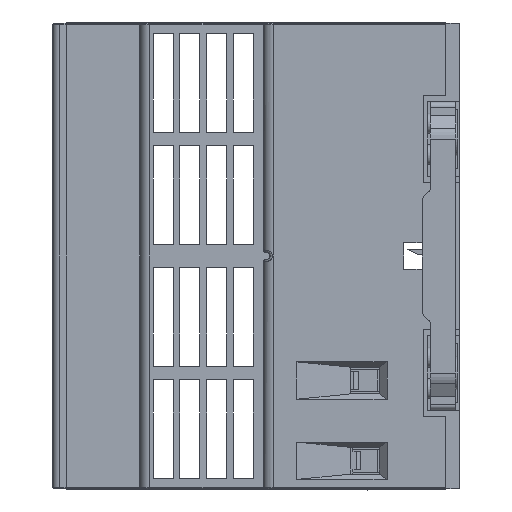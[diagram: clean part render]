
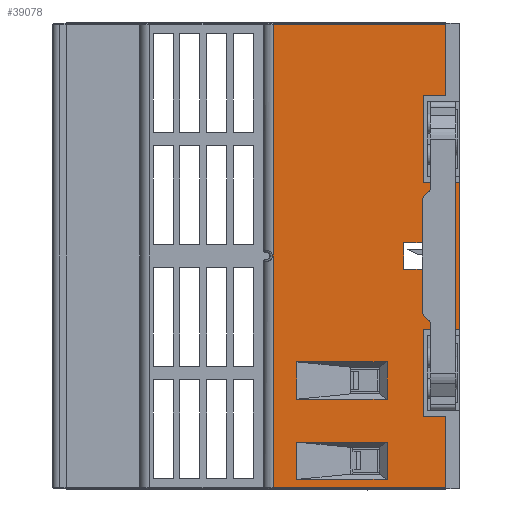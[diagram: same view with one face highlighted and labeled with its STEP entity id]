
A CAD part, left-side view. The second image highlights one B-rep face of the part: STEP entity #39078.
In plain terms, the highlighted planar face has unit normal (-1, 0, 0).
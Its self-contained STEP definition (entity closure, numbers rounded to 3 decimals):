
#11042=ORIENTED_EDGE('',*,*,#17082,.F.);
#11043=ORIENTED_EDGE('',*,*,#17083,.T.);
#11044=ORIENTED_EDGE('',*,*,#17084,.F.);
#11045=ORIENTED_EDGE('',*,*,#17085,.F.);
#11046=ORIENTED_EDGE('',*,*,#17086,.F.);
#11047=ORIENTED_EDGE('',*,*,#17087,.F.);
#11048=ORIENTED_EDGE('',*,*,#17088,.F.);
#11049=ORIENTED_EDGE('',*,*,#17089,.F.);
#11050=ORIENTED_EDGE('',*,*,#17090,.F.);
#11051=ORIENTED_EDGE('',*,*,#17091,.T.);
#11052=ORIENTED_EDGE('',*,*,#17092,.F.);
#11053=ORIENTED_EDGE('',*,*,#17093,.F.);
#11054=ORIENTED_EDGE('',*,*,#17094,.T.);
#11055=ORIENTED_EDGE('',*,*,#17095,.F.);
#11056=ORIENTED_EDGE('',*,*,#17096,.F.);
#11057=ORIENTED_EDGE('',*,*,#17097,.T.);
#11058=ORIENTED_EDGE('',*,*,#17098,.F.);
#11059=ORIENTED_EDGE('',*,*,#17099,.T.);
#11060=ORIENTED_EDGE('',*,*,#17100,.T.);
#11061=ORIENTED_EDGE('',*,*,#17101,.F.);
#11062=ORIENTED_EDGE('',*,*,#17102,.F.);
#11063=ORIENTED_EDGE('',*,*,#17103,.T.);
#11064=ORIENTED_EDGE('',*,*,#17104,.F.);
#11065=ORIENTED_EDGE('',*,*,#17105,.T.);
#11066=ORIENTED_EDGE('',*,*,#17106,.T.);
#11067=ORIENTED_EDGE('',*,*,#17107,.F.);
#11068=ORIENTED_EDGE('',*,*,#17108,.F.);
#11069=ORIENTED_EDGE('',*,*,#17109,.F.);
#17082=EDGE_CURVE('',#21455,#21456,#26701,.T.);
#17083=EDGE_CURVE('',#21455,#21457,#26702,.T.);
#17084=EDGE_CURVE('',#21458,#21457,#26703,.T.);
#17085=EDGE_CURVE('',#21459,#21458,#26704,.T.);
#17086=EDGE_CURVE('',#21460,#21459,#26705,.T.);
#17087=EDGE_CURVE('',#21461,#21460,#26706,.T.);
#17088=EDGE_CURVE('',#21462,#21461,#26707,.T.);
#17089=EDGE_CURVE('',#21463,#21462,#26708,.T.);
#17090=EDGE_CURVE('',#21464,#21463,#26709,.T.);
#17091=EDGE_CURVE('',#21464,#21465,#26710,.T.);
#17092=EDGE_CURVE('',#21466,#21465,#26711,.T.);
#17093=EDGE_CURVE('',#21456,#21466,#26712,.T.);
#17094=EDGE_CURVE('',#21467,#21468,#26713,.T.);
#17095=EDGE_CURVE('',#21469,#21468,#26714,.T.);
#17096=EDGE_CURVE('',#21470,#21469,#26715,.T.);
#17097=EDGE_CURVE('',#21470,#21467,#26716,.T.);
#17098=EDGE_CURVE('',#21471,#21472,#26717,.T.);
#17099=EDGE_CURVE('',#21471,#21473,#26718,.T.);
#17100=EDGE_CURVE('',#21473,#21474,#26719,.T.);
#17101=EDGE_CURVE('',#21472,#21474,#26720,.T.);
#17102=EDGE_CURVE('',#21475,#21476,#26721,.T.);
#17103=EDGE_CURVE('',#21475,#21477,#26722,.T.);
#17104=EDGE_CURVE('',#21478,#21477,#26723,.T.);
#17105=EDGE_CURVE('',#21478,#21479,#26724,.T.);
#17106=EDGE_CURVE('',#21479,#21480,#26725,.T.);
#17107=EDGE_CURVE('',#21481,#21480,#26726,.T.);
#17108=EDGE_CURVE('',#21482,#21481,#26727,.T.);
#17109=EDGE_CURVE('',#21476,#21482,#26728,.T.);
#21455=VERTEX_POINT('',#67293);
#21456=VERTEX_POINT('',#67294);
#21457=VERTEX_POINT('',#67296);
#21458=VERTEX_POINT('',#67298);
#21459=VERTEX_POINT('',#67300);
#21460=VERTEX_POINT('',#67302);
#21461=VERTEX_POINT('',#67304);
#21462=VERTEX_POINT('',#67306);
#21463=VERTEX_POINT('',#67308);
#21464=VERTEX_POINT('',#67310);
#21465=VERTEX_POINT('',#67312);
#21466=VERTEX_POINT('',#67314);
#21467=VERTEX_POINT('',#67317);
#21468=VERTEX_POINT('',#67318);
#21469=VERTEX_POINT('',#67320);
#21470=VERTEX_POINT('',#67322);
#21471=VERTEX_POINT('',#67325);
#21472=VERTEX_POINT('',#67326);
#21473=VERTEX_POINT('',#67328);
#21474=VERTEX_POINT('',#67330);
#21475=VERTEX_POINT('',#67333);
#21476=VERTEX_POINT('',#67334);
#21477=VERTEX_POINT('',#67336);
#21478=VERTEX_POINT('',#67338);
#21479=VERTEX_POINT('',#67340);
#21480=VERTEX_POINT('',#67342);
#21481=VERTEX_POINT('',#67344);
#21482=VERTEX_POINT('',#67346);
#26701=LINE('',#67292,#31941);
#26702=LINE('',#67295,#31942);
#26703=LINE('',#67297,#31943);
#26704=LINE('',#67299,#31944);
#26705=LINE('',#67301,#31945);
#26706=LINE('',#67303,#31946);
#26707=LINE('',#67305,#31947);
#26708=LINE('',#67307,#31948);
#26709=LINE('',#67309,#31949);
#26710=LINE('',#67311,#31950);
#26711=LINE('',#67313,#31951);
#26712=LINE('',#67315,#31952);
#26713=LINE('',#67316,#31953);
#26714=LINE('',#67319,#31954);
#26715=LINE('',#67321,#31955);
#26716=LINE('',#67323,#31956);
#26717=LINE('',#67324,#31957);
#26718=LINE('',#67327,#31958);
#26719=LINE('',#67329,#31959);
#26720=LINE('',#67331,#31960);
#26721=LINE('',#67332,#31961);
#26722=LINE('',#67335,#31962);
#26723=LINE('',#67337,#31963);
#26724=LINE('',#67339,#31964);
#26725=LINE('',#67341,#31965);
#26726=LINE('',#67343,#31966);
#26727=LINE('',#67345,#31967);
#26728=LINE('',#67347,#31968);
#31941=VECTOR('',#51827,1000.);
#31942=VECTOR('',#51828,1000.);
#31943=VECTOR('',#51829,1000.);
#31944=VECTOR('',#51830,1000.);
#31945=VECTOR('',#51831,1000.);
#31946=VECTOR('',#51832,1000.);
#31947=VECTOR('',#51833,1000.);
#31948=VECTOR('',#51834,1000.);
#31949=VECTOR('',#51835,1000.);
#31950=VECTOR('',#51836,1000.);
#31951=VECTOR('',#51837,1000.);
#31952=VECTOR('',#51838,1000.);
#31953=VECTOR('',#51839,1000.);
#31954=VECTOR('',#51840,1000.);
#31955=VECTOR('',#51841,1000.);
#31956=VECTOR('',#51842,1000.);
#31957=VECTOR('',#51843,1000.);
#31958=VECTOR('',#51844,1000.);
#31959=VECTOR('',#51845,1000.);
#31960=VECTOR('',#51846,1000.);
#31961=VECTOR('',#51847,1000.);
#31962=VECTOR('',#51848,1000.);
#31963=VECTOR('',#51849,1000.);
#31964=VECTOR('',#51850,1000.);
#31965=VECTOR('',#51851,1000.);
#31966=VECTOR('',#51852,1000.);
#31967=VECTOR('',#51853,1000.);
#31968=VECTOR('',#51854,1000.);
#33912=EDGE_LOOP('',(#11042,#11043,#11044,#11045,#11046,#11047,#11048,#11049,
#11050,#11051,#11052,#11053));
#33913=EDGE_LOOP('',(#11054,#11055,#11056,#11057));
#33914=EDGE_LOOP('',(#11058,#11059,#11060,#11061));
#33915=EDGE_LOOP('',(#11062,#11063,#11064,#11065,#11066,#11067,#11068,#11069));
#35844=FACE_BOUND('',#33912,.T.);
#35845=FACE_BOUND('',#33913,.T.);
#35846=FACE_BOUND('',#33914,.T.);
#35847=FACE_BOUND('',#33915,.T.);
#37322=PLANE('',#41989);
#39078=ADVANCED_FACE('',(#35844,#35845,#35846,#35847),#37322,.T.);
#41989=AXIS2_PLACEMENT_3D('',#67291,#51825,#51826);
#51825=DIRECTION('',(-1.,0.,0.));
#51826=DIRECTION('',(0.,0.,1.));
#51827=DIRECTION('',(0.,0.,-1.));
#51828=DIRECTION('',(0.,-1.,0.));
#51829=DIRECTION('',(0.,0.,-1.));
#51830=DIRECTION('',(0.,-1.,0.));
#51831=DIRECTION('',(0.,0.,-1.));
#51832=DIRECTION('',(0.,1.,0.));
#51833=DIRECTION('',(0.,0.,-1.));
#51834=DIRECTION('',(0.,-1.,0.));
#51835=DIRECTION('',(0.,0.,1.));
#51836=DIRECTION('',(0.,-1.,0.));
#51837=DIRECTION('',(0.,0.,-1.));
#51838=DIRECTION('',(0.,-1.,0.));
#51839=DIRECTION('',(0.,1.,0.));
#51840=DIRECTION('',(0.,0.,-1.));
#51841=DIRECTION('',(0.,1.,0.));
#51842=DIRECTION('',(0.,0.,-1.));
#51843=DIRECTION('',(0.,1.,0.));
#51844=DIRECTION('',(0.,0.,-1.));
#51845=DIRECTION('',(0.,1.,0.));
#51846=DIRECTION('',(0.,0.,-1.));
#51847=DIRECTION('',(0.,0.,1.));
#51848=DIRECTION('',(0.,1.,0.));
#51849=DIRECTION('',(0.,0.,-1.));
#51850=DIRECTION('',(0.,1.,0.));
#51851=DIRECTION('',(0.,0.,1.));
#51852=DIRECTION('',(0.,1.,0.));
#51853=DIRECTION('',(0.,0.,-1.));
#51854=DIRECTION('',(0.,1.,0.));
#67291=CARTESIAN_POINT('',(-42.,-53.311,-0.389));
#67292=CARTESIAN_POINT('',(-42.,-48.,-45.95));
#67293=CARTESIAN_POINT('',(-42.,-48.,-45.95));
#67294=CARTESIAN_POINT('',(-42.,-48.,-59.05));
#67295=CARTESIAN_POINT('',(-42.,-48.,-45.95));
#67296=CARTESIAN_POINT('',(-42.,-53.3,-45.95));
#67297=CARTESIAN_POINT('',(-42.,-53.3,-24.05));
#67298=CARTESIAN_POINT('',(-42.,-53.3,-24.05));
#67299=CARTESIAN_POINT('',(-42.,-48.,-24.05));
#67300=CARTESIAN_POINT('',(-42.,-48.,-24.05));
#67301=CARTESIAN_POINT('',(-42.,-48.,-10.95));
#67302=CARTESIAN_POINT('',(-42.,-48.,-10.95));
#67303=CARTESIAN_POINT('',(-42.,-51.3,-10.95));
#67304=CARTESIAN_POINT('',(-42.,-51.3,-10.95));
#67305=CARTESIAN_POINT('',(-42.,-51.3,-0.4));
#67306=CARTESIAN_POINT('',(-42.,-51.3,-0.4));
#67307=CARTESIAN_POINT('',(-42.,-25.5,-0.4));
#67308=CARTESIAN_POINT('',(-42.,-25.5,-0.4));
#67309=CARTESIAN_POINT('',(-42.,-25.5,-69.6));
#67310=CARTESIAN_POINT('',(-42.,-25.5,-69.6));
#67311=CARTESIAN_POINT('',(-42.,-25.5,-69.6));
#67312=CARTESIAN_POINT('',(-42.,-51.3,-69.6));
#67313=CARTESIAN_POINT('',(-42.,-51.3,-59.05));
#67314=CARTESIAN_POINT('',(-42.,-51.3,-59.05));
#67315=CARTESIAN_POINT('',(-42.,-48.,-59.05));
#67316=CARTESIAN_POINT('',(-42.,-42.5,-68.425));
#67317=CARTESIAN_POINT('',(-42.,-42.5,-68.425));
#67318=CARTESIAN_POINT('',(-42.,-29.,-68.425));
#67319=CARTESIAN_POINT('',(-42.,-29.,-62.825));
#67320=CARTESIAN_POINT('',(-42.,-29.,-62.825));
#67321=CARTESIAN_POINT('',(-42.,-42.5,-62.825));
#67322=CARTESIAN_POINT('',(-42.,-42.5,-62.825));
#67323=CARTESIAN_POINT('',(-42.,-42.5,-62.825));
#67324=CARTESIAN_POINT('',(-42.,-42.5,-50.825));
#67325=CARTESIAN_POINT('',(-42.,-42.5,-50.825));
#67326=CARTESIAN_POINT('',(-42.,-29.,-50.825));
#67327=CARTESIAN_POINT('',(-42.,-42.5,-50.825));
#67328=CARTESIAN_POINT('',(-42.,-42.5,-56.425));
#67329=CARTESIAN_POINT('',(-42.,-42.5,-56.425));
#67330=CARTESIAN_POINT('',(-42.,-29.,-56.425));
#67331=CARTESIAN_POINT('',(-42.,-29.,-50.825));
#67332=CARTESIAN_POINT('',(-42.,-50.5,-38.5));
#67333=CARTESIAN_POINT('',(-42.,-50.5,-38.5));
#67334=CARTESIAN_POINT('',(-42.,-50.5,-31.5));
#67335=CARTESIAN_POINT('',(-42.,-50.5,-38.5));
#67336=CARTESIAN_POINT('',(-42.,-48.05,-38.5));
#67337=CARTESIAN_POINT('',(-42.,-48.05,-37.));
#67338=CARTESIAN_POINT('',(-42.,-48.05,-37.));
#67339=CARTESIAN_POINT('',(-42.,-48.05,-37.));
#67340=CARTESIAN_POINT('',(-42.,-45.,-37.));
#67341=CARTESIAN_POINT('',(-42.,-45.,-37.));
#67342=CARTESIAN_POINT('',(-42.,-45.,-33.));
#67343=CARTESIAN_POINT('',(-42.,-48.05,-33.));
#67344=CARTESIAN_POINT('',(-42.,-48.05,-33.));
#67345=CARTESIAN_POINT('',(-42.,-48.05,-31.5));
#67346=CARTESIAN_POINT('',(-42.,-48.05,-31.5));
#67347=CARTESIAN_POINT('',(-42.,-50.5,-31.5));
